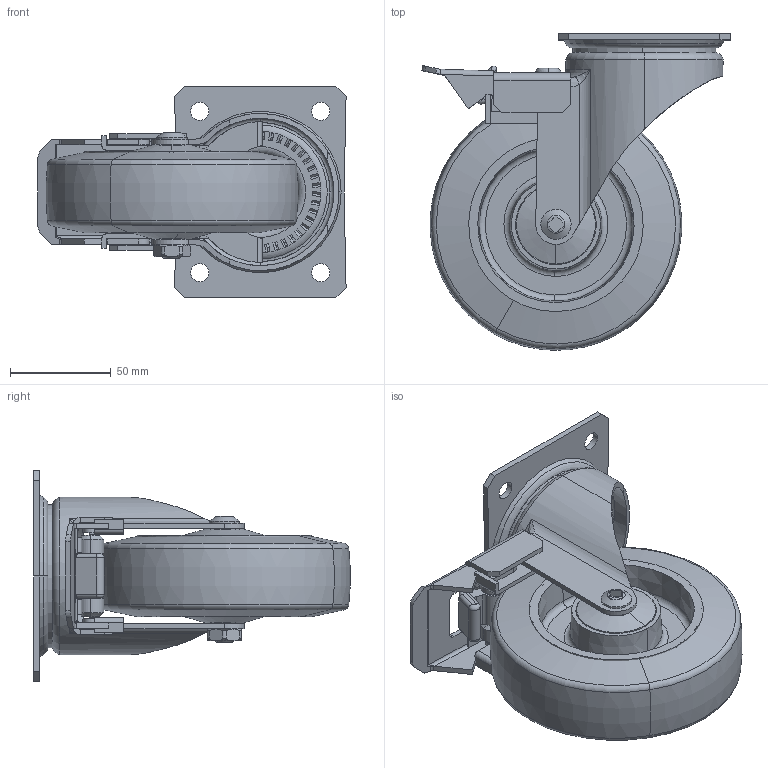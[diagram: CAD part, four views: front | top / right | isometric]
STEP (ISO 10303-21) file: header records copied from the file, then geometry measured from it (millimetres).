
FILE_DESCRIPTION (( 'STEP AP203' ), '1' );
FILE_NAME ('400414_STEP.STEP', '2011-10-21T12:25:22', ( '' ), ( '' ), 'SwSTEP 2.0', 'SolidWorks 2011', '' );
FILE_SCHEMA (( 'CONFIG_CONTROL_DESIGN' ));
Length unit declared in the file: millimetre
Products named in the file (1): 400414_STEP
Bounding box: 152.77 x 156.88 x 105 mm (x, y, z)
Surface area: 129624.3 mm2 (no closed solid volume)
Topology: 0 solids, 24 shells, 545 faces, 1860 edges, 1283 vertices
Faces by surface type: plane 267, cylinder 146, torus 63, cone 55, bspline 10, sphere 4
Entity records: 21147 total; most frequent: CARTESIAN_POINT 5115, DIRECTION 3407, ORIENTED_EDGE 3100, EDGE_CURVE 1856, VERTEX_POINT 1283, AXIS2_PLACEMENT_3D 1208, LINE 991, VECTOR 991
